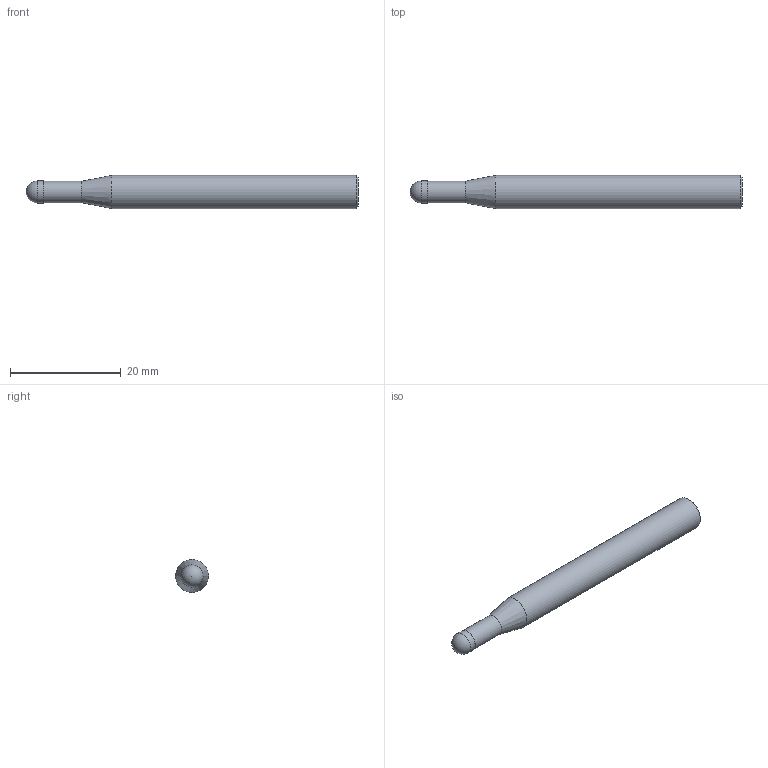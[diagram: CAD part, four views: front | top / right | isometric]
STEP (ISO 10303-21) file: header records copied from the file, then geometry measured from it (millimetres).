
FILE_DESCRIPTION(/* description */ (''),/* implementation_level */ '2;1');
FILE_NAME(/* name */ 'HSXB2040 0660.stp',/* time_stamp */ '2026-08-01T17:11:44+08:00',/* author */ (''),/* organization */ (''),/* preprocessor_version */ 'ST-DEVELOPER v16',/* originating_system */ 'SIEMENS PLM Software NX 10.0',/* authorisation */ '');
FILE_SCHEMA (('CONFIG_CONTROL_DESIGN'));
Length unit declared in the file: millimetre
Products named in the file (1): HSXB2040 0660_dxf
Bounding box: 60 x 6 x 6 mm (x, y, z)
Volume: 1478.7 mm3; surface area: 1099.1 mm2
Topology: 2 solids, 2 shells, 9 faces, 15 edges, 9 vertices
Faces by surface type: plane 3, cylinder 3, cone 2, sphere 1
Full cylindrical faces by diameter (mm): 3.9 x1, 4 x1, 6 x1
Entity records: 246 total; most frequent: DIRECTION 34, CARTESIAN_POINT 24, AXIS2_PLACEMENT_3D 17, EDGE_LOOP 14, ORIENTED_EDGE 14, FACE_BOUND 10, ADVANCED_FACE 9, PERSON_AND_ORGANIZATION 7
